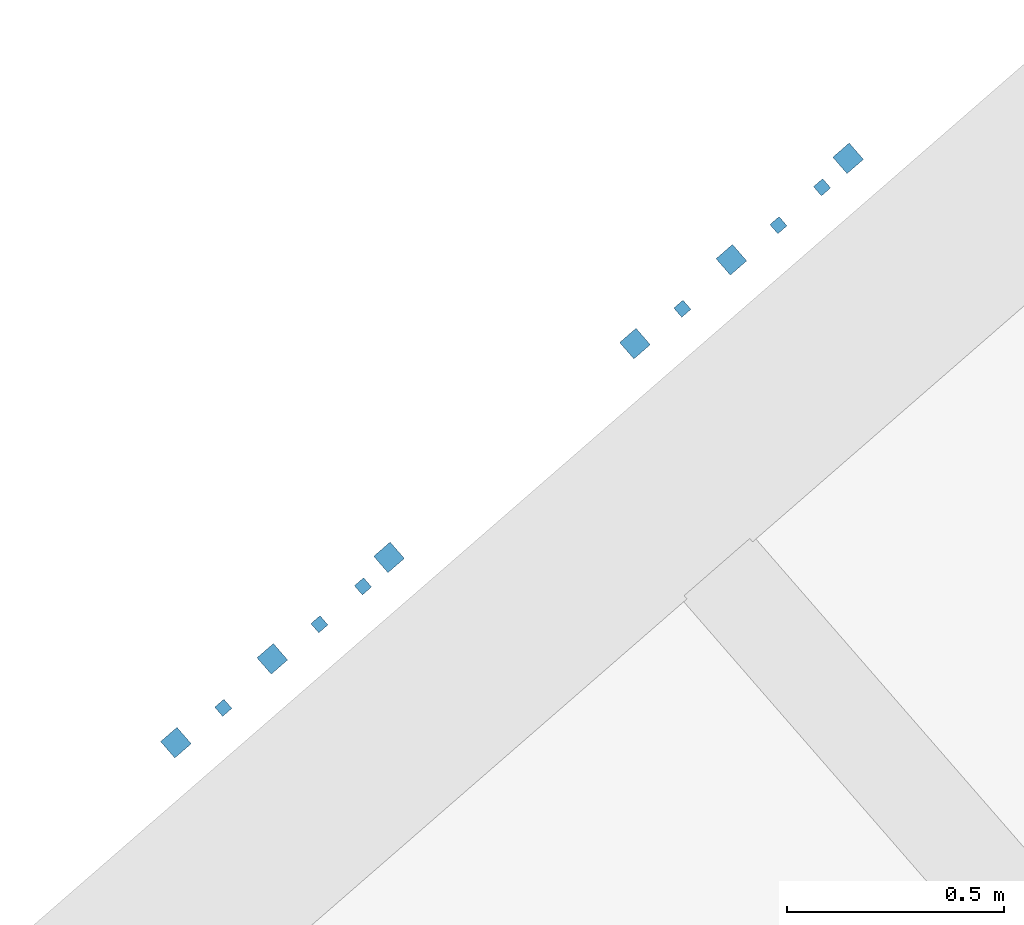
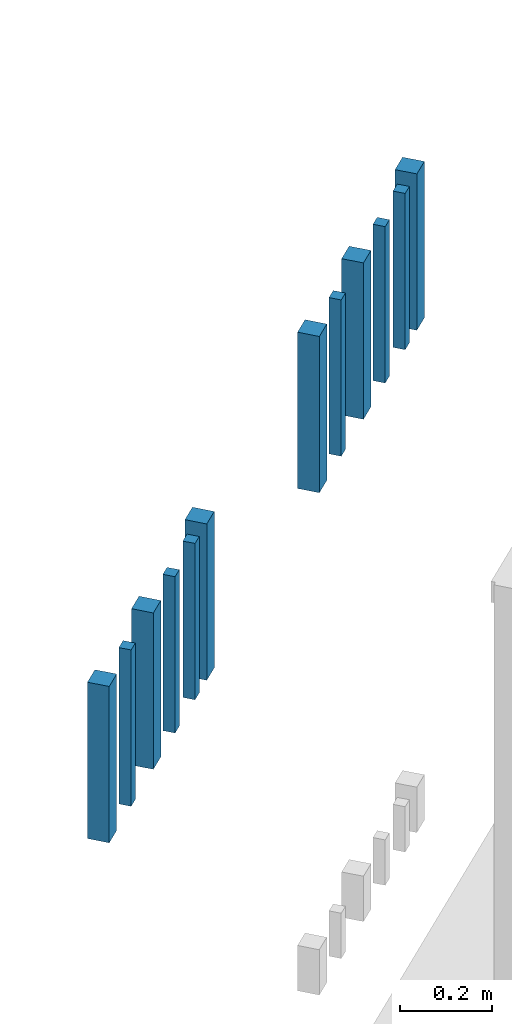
# One storey, part 99 of 124: 12 walls.
"""IFC2X3 building model written with IfcOpenShell, lengths in millimetres."""

from ifc_helpers import new_model, entity, si_unit, converted_unit, derived_unit, money_unit, direction, frame, origin_with_axes, place, context, subcontext, project, spatial, faceted_brep, material, type_object, element, save


model = new_model("IFC2X3")

# Units and contexts
model_context = context("Model", 3, precision=1e-05, world=origin_with_axes(), true_north=direction((0.0, 1.0)))
body_context = subcontext(model_context, "Body", "Model", "MODEL_VIEW")
ifc_project = project(units=[si_unit("LENGTHUNIT", "METRE", prefix="MILLI"), si_unit("AREAUNIT", "SQUARE_METRE"), si_unit("VOLUMEUNIT", "CUBIC_METRE"), converted_unit("PLANEANGLEUNIT", "DEGREE", entity("IfcPlaneAngleMeasure", 0.0174532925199), si_unit("PLANEANGLEUNIT", "RADIAN"), dimensions=[0, 0, 0, 0, 0, 0, 0]), si_unit("SOLIDANGLEUNIT", "STERADIAN"), money_unit("EUR"), converted_unit("TIMEUNIT", "Year", entity("IfcTimeMeasure", 31556926.0), si_unit("TIMEUNIT", "SECOND"), dimensions=[0, 0, 1, 0, 0, 0, 0]), si_unit("MASSUNIT", "GRAM", prefix="KILO"), si_unit("THERMODYNAMICTEMPERATUREUNIT", "DEGREE_CELSIUS"), si_unit("LUMINOUSINTENSITYUNIT", "LUMEN"), si_unit("ENERGYUNIT", "JOULE", prefix="MEGA"), derived_unit("THERMALCONDUCTANCEUNIT", [(si_unit("POWERUNIT", "WATT"), 1), (si_unit("LENGTHUNIT", "METRE"), -1), (si_unit("THERMODYNAMICTEMPERATUREUNIT", "KELVIN"), -1)]), derived_unit("SPECIFICHEATCAPACITYUNIT", [(si_unit("ENERGYUNIT", "JOULE"), 1), (si_unit("MASSUNIT", "GRAM", prefix="KILO"), -1), (si_unit("THERMODYNAMICTEMPERATUREUNIT", "KELVIN"), -1)]), derived_unit("MASSDENSITYUNIT", [(si_unit("MASSUNIT", "GRAM", prefix="KILO"), 1), (si_unit("VOLUMEUNIT", "CUBIC_METRE"), -1)])], contexts=[model_context])

# Site, building, storey
site_placement = place(None, origin_with_axes())
site = spatial("IfcSite", under=ifc_project, at=site_placement, Name="Site", CompositionType="ELEMENT")
building_placement = place(site_placement, origin_with_axes())
building = spatial("IfcBuilding", under=site, at=building_placement, Name="Building", CompositionType="ELEMENT")
storey_placement = place(building_placement, frame((0.0, 0.0, -1615.0), z_axis=(0.0, 0.0, 1.0), x_axis=(1.0, 0.0, 0.0)))
storey = spatial("IfcBuildingStorey", under=building, at=storey_placement, Name="0  korrus", CompositionType="ELEMENT", Elevation=-1615.0)

# Walls
ifc_material = material(Name="Site specified")
wall_type = type_object("IfcWallType", Name="Puitfassaadi ribistik", PredefinedType="NOTDEFINED")
wall_1_placement = place(storey_placement, frame((156952.530099, 106473.168672, 2945.0), z_axis=(0.0, 0.0, 1.0), x_axis=(0.754709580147, 0.656059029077, 0.0)))
element("IfcWall", 1, at=wall_1_placement, inside=storey, type_object=wall_type, material=ifc_material, Name="Site specified", context=body_context, shape_type="Brep", body=[
    faceted_brep([(25.0, 25.0, 414.0), (25.0, 25.0, 0.0), (-25.0, 25.0, 0.0), (-25.0, 25.0, 414.0), (25.0, -25.0, 414.0), (25.0, -25.0, 0.0), (-25.0, -25.0, 0.0), (-25.0, -25.0, 414.0)], [[[0, 1, 2, 3]], [[4, 5, 1, 0]], [[2, 1, 5, 6]], [[3, 2, 6, 7]], [[4, 0, 3, 7]], [[7, 6, 5, 4]]]),
])
wall_2_placement = place(storey_placement, frame((156792.198829, 106319.219683, 2945.0), z_axis=(0.0, 0.0, 1.0), x_axis=(0.754709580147, 0.656059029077, 0.0)))
element("IfcWall", 2, at=wall_2_placement, inside=storey, type_object=wall_type, material=ifc_material, Name="Site specified", context=body_context, shape_type="Brep", body=[
    faceted_brep([(14.0, 14.0, 414.0), (14.0, 14.0, 0.0), (-14.0, 14.0, 0.0), (-14.0, 14.0, 414.0), (14.0, -14.0, 414.0), (14.0, -14.0, 0.0), (-14.0, -14.0, 0.0), (-14.0, -14.0, 414.0)], [[[0, 1, 2, 3]], [[4, 5, 1, 0]], [[2, 1, 5, 6]], [[3, 2, 6, 7]], [[4, 0, 3, 7]], [[7, 6, 5, 4]]]),
])
wall_3_placement = place(storey_placement, frame((156683.849237, 106239.607962, 2945.0), z_axis=(0.0, 0.0, 1.0), x_axis=(0.754709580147, 0.656059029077, 0.0)))
element("IfcWall", 3, at=wall_3_placement, inside=storey, type_object=wall_type, material=ifc_material, Name="Site specified", context=body_context, shape_type="Brep", body=[
    faceted_brep([(25.0, 25.0, 414.0), (25.0, 25.0, 0.0), (-25.0, 25.0, 0.0), (-25.0, 25.0, 414.0), (25.0, -25.0, 414.0), (25.0, -25.0, 0.0), (-25.0, -25.0, 0.0), (-25.0, -25.0, 414.0)], [[[0, 1, 2, 3]], [[4, 5, 1, 0]], [[2, 1, 5, 6]], [[3, 2, 6, 7]], [[4, 0, 3, 7]], [[7, 6, 5, 4]]]),
])
wall_4_placement = place(storey_placement, frame((156892.575203, 106406.475533, 2945.0), z_axis=(0.0, 0.0, 1.0), x_axis=(0.754709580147, 0.656059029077, 0.0)))
element("IfcWall", 4, at=wall_4_placement, inside=storey, type_object=wall_type, material=ifc_material, Name="Site specified", context=body_context, shape_type="Brep", body=[
    faceted_brep([(14.0, 14.0, 414.0), (14.0, 14.0, 0.0), (-14.0, 14.0, 0.0), (-14.0, 14.0, 414.0), (14.0, -14.0, 414.0), (14.0, -14.0, 0.0), (-14.0, -14.0, 0.0), (-14.0, -14.0, 414.0)], [[[0, 1, 2, 3]], [[4, 5, 1, 0]], [[2, 1, 5, 6]], [[3, 2, 6, 7]], [[4, 0, 3, 7]], [[7, 6, 5, 4]]]),
])
wall_5_placement = place(storey_placement, frame((156461.964622, 106046.726609, 2945.0), z_axis=(0.0, 0.0, 1.0), x_axis=(0.754709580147, 0.656059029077, 0.0)))
element("IfcWall", 5, at=wall_5_placement, inside=storey, type_object=wall_type, material=ifc_material, Name="Site specified", context=body_context, shape_type="Brep", body=[
    faceted_brep([(25.0, 25.0, 414.0), (25.0, 25.0, 0.0), (-25.0, 25.0, 0.0), (-25.0, 25.0, 414.0), (25.0, -25.0, 414.0), (25.0, -25.0, 0.0), (-25.0, -25.0, 0.0), (-25.0, -25.0, 414.0)], [[[0, 1, 2, 3]], [[4, 5, 1, 0]], [[2, 1, 5, 6]], [[3, 2, 6, 7]], [[4, 0, 3, 7]], [[7, 6, 5, 4]]]),
])
for number, where, z_axis, x_axis, name in (
    (6, (156571.068944, 106126.994406, 2945.0), (0.0, 0.0, 1.0), (0.754709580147, 0.656059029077, 0.0), "Site specified"),
    (7, (157848.791998, 107237.702112, 2945.0), (0.0, 0.0, 1.0), (0.754709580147, 0.656059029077, 0.0), "Site specified"),
):
    element("IfcWall", number, at=place(storey_placement, frame(where, z_axis=z_axis, x_axis=x_axis)), inside=storey, type_object=wall_type, material=ifc_material, Name=name, context=body_context, shape_type="Brep", body=[
        faceted_brep([(14.0, 14.0, 414.0), (14.0, 14.0, 0.0), (-14.0, 14.0, 0.0), (-14.0, 14.0, 414.0), (14.0, -14.0, 414.0), (14.0, -14.0, 0.0), (-14.0, -14.0, 0.0), (-14.0, -14.0, 414.0)], [[[0, 1, 2, 3]], [[4, 5, 1, 0]], [[2, 1, 5, 6]], [[3, 2, 6, 7]], [[4, 0, 3, 7]], [[7, 6, 5, 4]]]),
    ])
wall_6_placement = place(storey_placement, frame((158009.123268, 107391.651101, 2945.0), z_axis=(0.0, 0.0, 1.0), x_axis=(0.754709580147, 0.656059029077, 0.0)))
element("IfcWall", 8, at=wall_6_placement, inside=storey, type_object=wall_type, material=ifc_material, Name="Site specified", context=body_context, shape_type="Brep", body=[
    faceted_brep([(25.0, 25.0, 414.0), (25.0, 25.0, 0.0), (-25.0, 25.0, 0.0), (-25.0, 25.0, 414.0), (25.0, -25.0, 414.0), (25.0, -25.0, 0.0), (-25.0, -25.0, 0.0), (-25.0, -25.0, 414.0)], [[[0, 1, 2, 3]], [[4, 5, 1, 0]], [[2, 1, 5, 6]], [[3, 2, 6, 7]], [[4, 0, 3, 7]], [[7, 6, 5, 4]]]),
])
for number, where, z_axis, x_axis, name in (
    (9, (157949.168372, 107324.957962, 2945.0), (0.0, 0.0, 1.0), (0.754709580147, 0.656059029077, 0.0), "Site specified"),
    (10, (157627.662113, 107045.476836, 2945.0), (0.0, 0.0, 1.0), (0.754709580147, 0.656059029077, 0.0), "Site specified"),
):
    element("IfcWall", number, at=place(storey_placement, frame(where, z_axis=z_axis, x_axis=x_axis)), inside=storey, type_object=wall_type, material=ifc_material, Name=name, context=body_context, shape_type="Brep", body=[
        faceted_brep([(14.0, 14.0, 414.0), (14.0, 14.0, 0.0), (-14.0, 14.0, 0.0), (-14.0, 14.0, 414.0), (14.0, -14.0, 414.0), (14.0, -14.0, 0.0), (-14.0, -14.0, 0.0), (-14.0, -14.0, 414.0)], [[[0, 1, 2, 3]], [[4, 5, 1, 0]], [[2, 1, 5, 6]], [[3, 2, 6, 7]], [[4, 0, 3, 7]], [[7, 6, 5, 4]]]),
    ])
for number, where, z_axis, x_axis, name in (
    (11, (157518.557791, 106965.209038, 2945.0), (0.0, 0.0, 1.0), (0.754709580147, 0.656059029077, 0.0), "Site specified"),
    (12, (157740.442406, 107158.090391, 2945.0), (0.0, 0.0, 1.0), (0.754709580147, 0.656059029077, 0.0), "Site specified"),
):
    element("IfcWall", number, at=place(storey_placement, frame(where, z_axis=z_axis, x_axis=x_axis)), inside=storey, type_object=wall_type, material=ifc_material, Name=name, context=body_context, shape_type="Brep", body=[
        faceted_brep([(25.0, 25.0, 414.0), (25.0, 25.0, 0.0), (-25.0, 25.0, 0.0), (-25.0, 25.0, 414.0), (25.0, -25.0, 414.0), (25.0, -25.0, 0.0), (-25.0, -25.0, 0.0), (-25.0, -25.0, 414.0)], [[[0, 1, 2, 3]], [[4, 5, 1, 0]], [[2, 1, 5, 6]], [[3, 2, 6, 7]], [[4, 0, 3, 7]], [[7, 6, 5, 4]]]),
    ])

save(model, "model.ifc")
